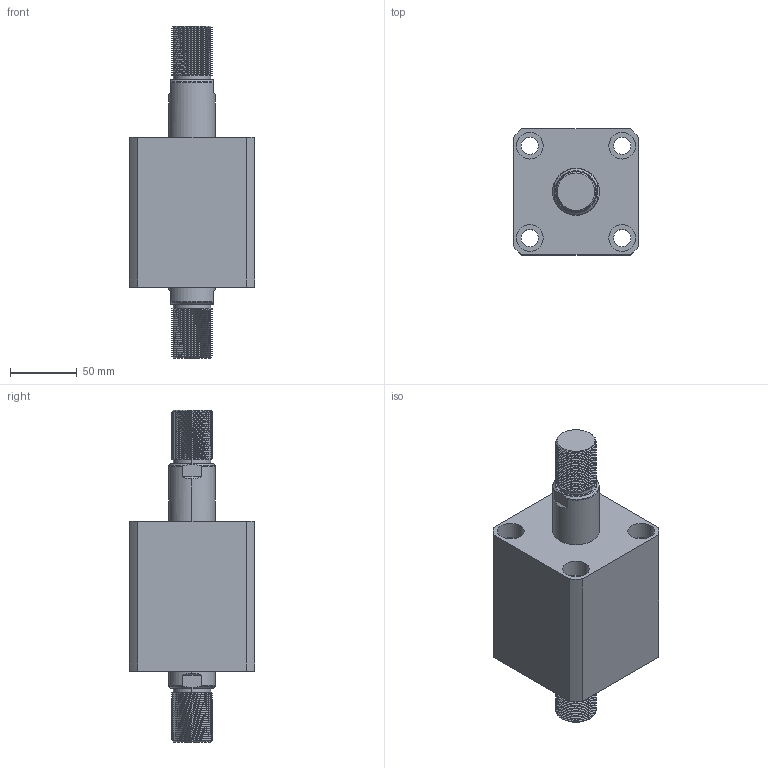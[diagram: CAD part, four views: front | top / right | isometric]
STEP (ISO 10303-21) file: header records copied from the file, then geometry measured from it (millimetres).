
FILE_DESCRIPTION (( 'STEP AP214' ), '1' );
FILE_NAME ('chtb-sw63x30w_asm.STEP', '2018-05-19T03:14:00', ( 'Windows' ), ( 'Microsoft' ), 'SwSTEP 2.0', 'SolidWorks 2015', '' );
FILE_SCHEMA (( 'AUTOMOTIVE_DESIGN' ));
Length unit declared in the file: millimetre
Products named in the file (4): CHTB-SW63X30WHSG; CHTB-SW63X30NBT; CHTB-63QG; chtb-sw63x30w_asm
Assembly tree (3 placements, depth 2):
  chtb-sw63x30w_asm
    CHTB-63QG
    CHTB-SW63X30NBT
    CHTB-SW63X30WHSG
Bounding box: 94 x 94 x 248 mm (x, y, z)
Volume: 938737.5 mm3; surface area: 156943.8 mm2
Topology: 3 solids, 3 shells, 296 faces, 841 edges, 569 vertices
Faces by surface type: cylinder 206, plane 46, bspline 16, cone 16, torus 12
Entity records: 27380 total; most frequent: CARTESIAN_POINT 20442, ORIENTED_EDGE 1674, DIRECTION 1166, EDGE_CURVE 837, VERTEX_POINT 569, AXIS2_PLACEMENT_3D 453, EDGE_LOOP 334, ADVANCED_FACE 296
